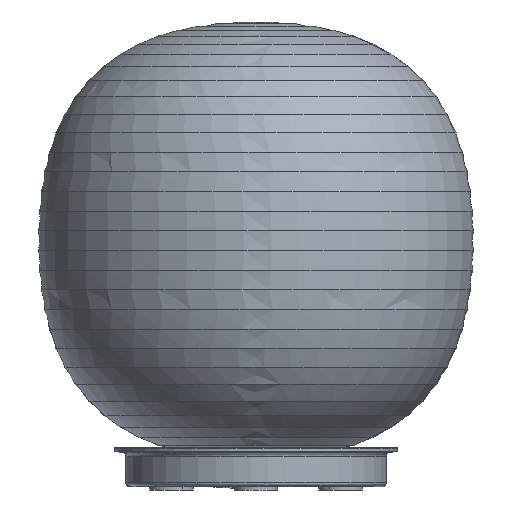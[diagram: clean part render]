
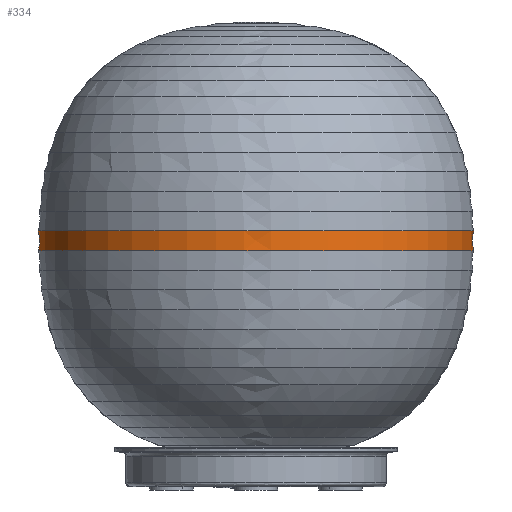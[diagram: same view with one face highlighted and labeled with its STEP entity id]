
A CAD part, front view. The second image highlights one B-rep face of the part: STEP entity #334.
In plain terms, the highlighted free-form (B-spline) face has degree [2, 3] with [9, 7] control points.
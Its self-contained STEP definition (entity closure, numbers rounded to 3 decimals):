
#334=ADVANCED_FACE('',(#711),#5572,.T.);
#711=FACE_OUTER_BOUND('',#1102,.T.);
#1102=EDGE_LOOP('',(#2187,#2188,#2189,#2190));
#2187=ORIENTED_EDGE('',*,*,#3512,.T.);
#2188=ORIENTED_EDGE('',*,*,#3509,.F.);
#2189=ORIENTED_EDGE('',*,*,#3513,.T.);
#2190=ORIENTED_EDGE('',*,*,#3511,.T.);
#3509=EDGE_CURVE('',#5104,#5103,#4559,.T.);
#3511=EDGE_CURVE('',#5106,#5105,#4560,.T.);
#3512=EDGE_CURVE('',#5105,#5103,#4273,.T.);
#3513=EDGE_CURVE('',#5104,#5106,#4274,.T.);
#4273=B_SPLINE_CURVE_WITH_KNOTS('',3,(#22786,#22787,#22788,#22789,#22790),
 .UNSPECIFIED.,.F.,.F.,(4,1,4),(-1.,-0.5,0.),
 .UNSPECIFIED.);
#4274=B_SPLINE_CURVE_WITH_KNOTS('',3,(#22791,#22792,#22793,#22794,#22795),
 .UNSPECIFIED.,.F.,.F.,(4,1,4),(-1.,-0.5,0.),
 .UNSPECIFIED.);
#4559=(
BOUNDED_CURVE()
B_SPLINE_CURVE(2,(#22771,#22772,#22773,#22774,#22775),.UNSPECIFIED.,.F.,
 .F.)
B_SPLINE_CURVE_WITH_KNOTS((3,2,3),(-314.953,-157.476,
0.),.UNSPECIFIED.)
CURVE()
GEOMETRIC_REPRESENTATION_ITEM()
RATIONAL_B_SPLINE_CURVE((1.,0.707,1.,0.707,1.))
REPRESENTATION_ITEM('')
);
#4560=(
BOUNDED_CURVE()
B_SPLINE_CURVE(2,(#22781,#22782,#22783,#22784,#22785),.UNSPECIFIED.,.F.,
 .F.)
B_SPLINE_CURVE_WITH_KNOTS((3,2,3),(-314.953,-157.476,0.),
 .UNSPECIFIED.)
CURVE()
GEOMETRIC_REPRESENTATION_ITEM()
RATIONAL_B_SPLINE_CURVE((1.,0.707,1.,0.707,1.))
REPRESENTATION_ITEM('')
);
#5103=VERTEX_POINT('',#22365);
#5104=VERTEX_POINT('',#22366);
#5105=VERTEX_POINT('',#22367);
#5106=VERTEX_POINT('',#22368);
#5572=(
BOUNDED_SURFACE()
B_SPLINE_SURFACE(2,3,((#18269,#18270,#18271,#18272,#18273,#18274,#18275),
(#18276,#18277,#18278,#18279,#18280,#18281,#18282),(#18283,#18284,#18285,
#18286,#18287,#18288,#18289),(#18290,#18291,#18292,#18293,#18294,#18295,
#18296),(#18297,#18298,#18299,#18300,#18301,#18302,#18303),(#18304,#18305,
#18306,#18307,#18308,#18309,#18310),(#18311,#18312,#18313,#18314,#18315,
#18316,#18317),(#18318,#18319,#18320,#18321,#18322,#18323,#18324),(#18325,
#18326,#18327,#18328,#18329,#18330,#18331)),.UNSPECIFIED.,.T.,.F.,.F.)
B_SPLINE_SURFACE_WITH_KNOTS((3,2,2,2,3),(4,1,1,1,4),(0.,157.566,
315.132,472.698,630.264),(0.,0.209,
4.768,9.327,9.536),.UNSPECIFIED.)
GEOMETRIC_REPRESENTATION_ITEM()
RATIONAL_B_SPLINE_SURFACE(((1.,1.,1.,1.,1.,1.,1.),(0.707,0.707,
0.707,0.707,0.707,0.707,
0.707),(1.,1.,1.,1.,1.,1.,1.),(0.707,0.707,
0.707,0.707,0.707,0.707,
0.707),(1.,1.,1.,1.,1.,1.,1.),(0.707,0.707,
0.707,0.707,0.707,0.707,
0.707),(1.,1.,1.,1.,1.,1.,1.),(0.707,0.707,
0.707,0.707,0.707,0.707,
0.707),(1.,1.,1.,1.,1.,1.,1.)))
REPRESENTATION_ITEM('')
SURFACE()
);
#18269=CARTESIAN_POINT('',(1343.266,1354.978,-100.31));
#18270=CARTESIAN_POINT('',(1343.266,1355.045,-100.29));
#18271=CARTESIAN_POINT('',(1343.266,1356.568,-99.856));
#18272=CARTESIAN_POINT('',(1343.266,1359.681,-99.405));
#18273=CARTESIAN_POINT('',(1343.266,1362.793,-99.856));
#18274=CARTESIAN_POINT('',(1343.266,1364.317,-100.29));
#18275=CARTESIAN_POINT('',(1343.266,1364.383,-100.31));
#18276=CARTESIAN_POINT('',(1242.956,1354.978,-100.31));
#18277=CARTESIAN_POINT('',(1242.976,1355.045,-100.29));
#18278=CARTESIAN_POINT('',(1243.41,1356.568,-99.856));
#18279=CARTESIAN_POINT('',(1243.861,1359.681,-99.405));
#18280=CARTESIAN_POINT('',(1243.41,1362.793,-99.856));
#18281=CARTESIAN_POINT('',(1242.976,1364.317,-100.29));
#18282=CARTESIAN_POINT('',(1242.956,1364.383,-100.31));
#18283=CARTESIAN_POINT('',(1242.956,1354.978,0.));
#18284=CARTESIAN_POINT('',(1242.976,1355.045,0.));
#18285=CARTESIAN_POINT('',(1243.41,1356.568,0.));
#18286=CARTESIAN_POINT('',(1243.861,1359.681,0.));
#18287=CARTESIAN_POINT('',(1243.41,1362.793,0.));
#18288=CARTESIAN_POINT('',(1242.976,1364.317,0.));
#18289=CARTESIAN_POINT('',(1242.956,1364.383,0.));
#18290=CARTESIAN_POINT('',(1242.956,1354.978,100.31));
#18291=CARTESIAN_POINT('',(1242.976,1355.045,100.29));
#18292=CARTESIAN_POINT('',(1243.41,1356.568,99.856));
#18293=CARTESIAN_POINT('',(1243.861,1359.681,99.405));
#18294=CARTESIAN_POINT('',(1243.41,1362.793,99.856));
#18295=CARTESIAN_POINT('',(1242.976,1364.317,100.29));
#18296=CARTESIAN_POINT('',(1242.956,1364.383,100.31));
#18297=CARTESIAN_POINT('',(1343.266,1354.978,100.31));
#18298=CARTESIAN_POINT('',(1343.266,1355.045,100.29));
#18299=CARTESIAN_POINT('',(1343.266,1356.568,99.856));
#18300=CARTESIAN_POINT('',(1343.266,1359.681,99.405));
#18301=CARTESIAN_POINT('',(1343.266,1362.793,99.856));
#18302=CARTESIAN_POINT('',(1343.266,1364.317,100.29));
#18303=CARTESIAN_POINT('',(1343.266,1364.383,100.31));
#18304=CARTESIAN_POINT('',(1443.576,1354.978,100.31));
#18305=CARTESIAN_POINT('',(1443.556,1355.045,100.29));
#18306=CARTESIAN_POINT('',(1443.122,1356.568,99.856));
#18307=CARTESIAN_POINT('',(1442.671,1359.681,99.405));
#18308=CARTESIAN_POINT('',(1443.122,1362.793,99.856));
#18309=CARTESIAN_POINT('',(1443.556,1364.317,100.29));
#18310=CARTESIAN_POINT('',(1443.576,1364.383,100.31));
#18311=CARTESIAN_POINT('',(1443.576,1354.978,0.));
#18312=CARTESIAN_POINT('',(1443.556,1355.045,0.));
#18313=CARTESIAN_POINT('',(1443.122,1356.568,0.));
#18314=CARTESIAN_POINT('',(1442.671,1359.681,0.));
#18315=CARTESIAN_POINT('',(1443.122,1362.793,0.));
#18316=CARTESIAN_POINT('',(1443.556,1364.317,0.));
#18317=CARTESIAN_POINT('',(1443.576,1364.383,0.));
#18318=CARTESIAN_POINT('',(1443.576,1354.978,-100.31));
#18319=CARTESIAN_POINT('',(1443.556,1355.045,-100.29));
#18320=CARTESIAN_POINT('',(1443.122,1356.568,-99.856));
#18321=CARTESIAN_POINT('',(1442.671,1359.681,-99.405));
#18322=CARTESIAN_POINT('',(1443.122,1362.793,-99.856));
#18323=CARTESIAN_POINT('',(1443.556,1364.317,-100.29));
#18324=CARTESIAN_POINT('',(1443.576,1364.383,-100.31));
#18325=CARTESIAN_POINT('',(1343.266,1354.978,-100.31));
#18326=CARTESIAN_POINT('',(1343.266,1355.045,-100.29));
#18327=CARTESIAN_POINT('',(1343.266,1356.568,-99.856));
#18328=CARTESIAN_POINT('',(1343.266,1359.681,-99.405));
#18329=CARTESIAN_POINT('',(1343.266,1362.793,-99.856));
#18330=CARTESIAN_POINT('',(1343.266,1364.317,-100.29));
#18331=CARTESIAN_POINT('',(1343.266,1364.383,-100.31));
#22365=CARTESIAN_POINT('',(1243.013,1355.178,0.));
#22366=CARTESIAN_POINT('',(1443.518,1355.178,0.));
#22367=CARTESIAN_POINT('',(1243.013,1364.183,0.));
#22368=CARTESIAN_POINT('',(1443.518,1364.183,0.));
#22771=CARTESIAN_POINT('',(1443.518,1355.178,0.));
#22772=CARTESIAN_POINT('',(1443.518,1355.178,100.253));
#22773=CARTESIAN_POINT('',(1343.266,1355.178,100.253));
#22774=CARTESIAN_POINT('',(1243.013,1355.178,100.253));
#22775=CARTESIAN_POINT('',(1243.013,1355.178,0.));
#22781=CARTESIAN_POINT('',(1443.518,1364.183,0.));
#22782=CARTESIAN_POINT('',(1443.518,1364.183,100.253));
#22783=CARTESIAN_POINT('',(1343.266,1364.183,100.253));
#22784=CARTESIAN_POINT('',(1243.013,1364.183,100.253));
#22785=CARTESIAN_POINT('',(1243.013,1364.183,0.));
#22786=CARTESIAN_POINT('',(1243.013,1364.183,0.));
#22787=CARTESIAN_POINT('',(1243.42,1362.723,0.));
#22788=CARTESIAN_POINT('',(1243.861,1359.681,0.));
#22789=CARTESIAN_POINT('',(1243.42,1356.638,0.));
#22790=CARTESIAN_POINT('',(1243.013,1355.178,0.));
#22791=CARTESIAN_POINT('',(1443.518,1355.178,0.));
#22792=CARTESIAN_POINT('',(1443.112,1356.638,0.));
#22793=CARTESIAN_POINT('',(1442.671,1359.681,0.));
#22794=CARTESIAN_POINT('',(1443.112,1362.723,0.));
#22795=CARTESIAN_POINT('',(1443.518,1364.183,0.));
